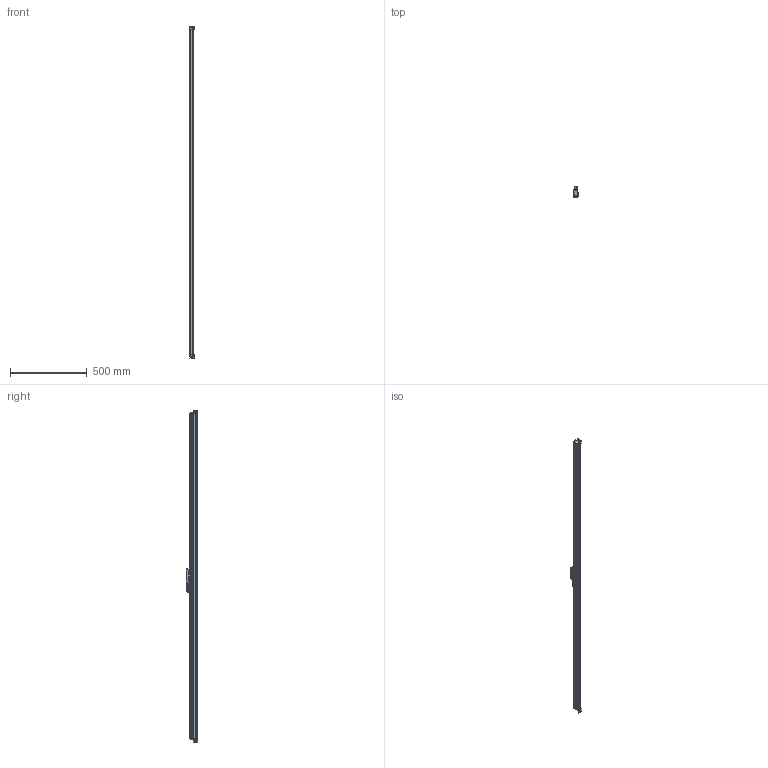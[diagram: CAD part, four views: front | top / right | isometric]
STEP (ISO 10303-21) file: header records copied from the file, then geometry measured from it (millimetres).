
FILE_DESCRIPTION (( 'STEP AP214' ), '1' );
FILE_NAME ('MLC310x2000.STEP', '2021-05-08T11:55:02', ( '' ), ( '' ), 'SwSTEP 2.0', 'SolidWorks 2014', '' );
FILE_SCHEMA (( 'AUTOMOTIVE_DESIGN' ));
Length unit declared in the file: millimetre
Products named in the file (1): MLC310x2000
Bounding box: 27 x 75.15 x 2164 mm (x, y, z)
Surface area: 363061.2 mm2 (no closed solid volume)
Topology: 0 solids, 21 shells, 324 faces, 1215 edges, 895 vertices
Faces by surface type: plane 134, cylinder 123, cone 51, bspline 14, torus 2
Entity records: 25707 total; most frequent: CARTESIAN_POINT 12206, DIRECTION 2047, ORIENTED_EDGE 1756, EDGE_CURVE 1213, VERTEX_POINT 895, AXIS2_PLACEMENT_3D 702, LINE 643, VECTOR 643
